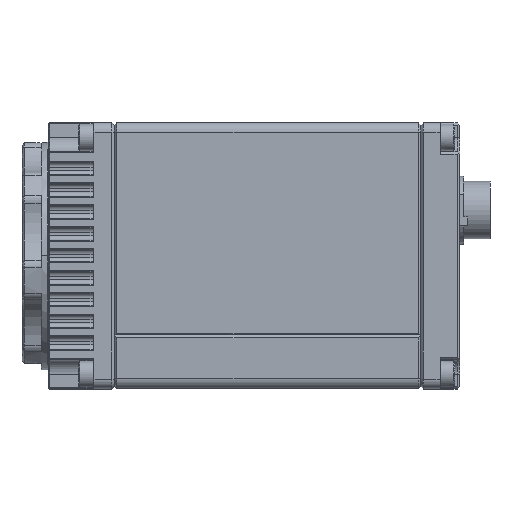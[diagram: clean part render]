
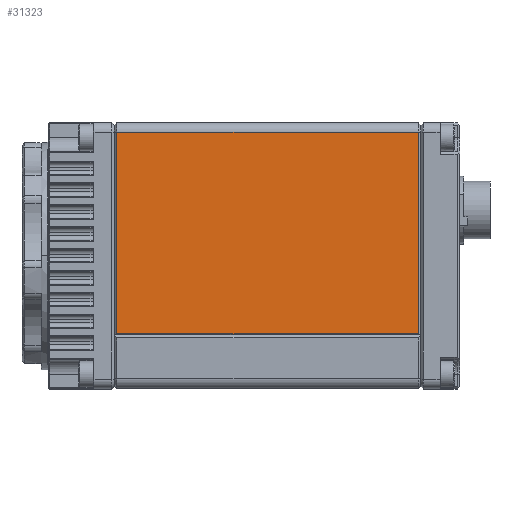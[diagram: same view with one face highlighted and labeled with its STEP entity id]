
A CAD part, top view. The second image highlights one B-rep face of the part: STEP entity #31323.
In plain terms, the highlighted planar face has unit normal (0, 0, 1).
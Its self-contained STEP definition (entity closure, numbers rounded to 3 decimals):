
#2192=DIRECTION('',(0.,-1.,0.));
#2193=VECTOR('',#2192,41.6);
#2194=CARTESIAN_POINT('',(19.59,25.5,27.5));
#2195=LINE('',#2194,#2193);
#3151=DIRECTION('',(0.,1.,0.));
#3152=VECTOR('',#3151,41.6);
#3153=CARTESIAN_POINT('',(81.99,-16.1,27.5));
#3154=LINE('',#3153,#3152);
#3159=DIRECTION('',(-1.,0.,0.));
#3160=VECTOR('',#3159,62.4);
#3161=CARTESIAN_POINT('',(81.99,-16.1,27.5));
#3162=LINE('',#3161,#3160);
#3163=DIRECTION('',(-1.,0.,0.));
#3164=VECTOR('',#3163,62.4);
#3165=CARTESIAN_POINT('',(81.99,25.5,27.5));
#3166=LINE('',#3165,#3164);
#26923=CARTESIAN_POINT('',(81.99,25.5,27.5));
#26924=VERTEX_POINT('',#26923);
#26925=CARTESIAN_POINT('',(81.99,-16.1,
27.5));
#26927=VERTEX_POINT('',#26925);
#26935=CARTESIAN_POINT('',(19.59,-16.1,
27.5));
#26936=VERTEX_POINT('',#26935);
#26937=CARTESIAN_POINT('',(19.59,25.5,27.5));
#26938=VERTEX_POINT('',#26937);
#31311=CARTESIAN_POINT('',(19.09,27.5,27.5));
#31312=DIRECTION('',(0.,0.,1.));
#31313=DIRECTION('',(0.,-1.,0.));
#31314=AXIS2_PLACEMENT_3D('',#31311,#31312,#31313);
#31315=PLANE('',#31314);
#31316=ORIENTED_EDGE('',*,*,#31292,.F.);
#31317=ORIENTED_EDGE('',*,*,#31306,.T.);
#31318=ORIENTED_EDGE('',*,*,#30058,.F.);
#31320=ORIENTED_EDGE('',*,*,#31319,.F.);
#31321=EDGE_LOOP('',(#31316,#31317,#31318,#31320));
#31322=FACE_OUTER_BOUND('',#31321,.F.);
#31323=ADVANCED_FACE('',(#31322),#31315,.T.);
#30058=EDGE_CURVE('',#26938,#26936,#2195,.T.);
#31292=EDGE_CURVE('',#26927,#26924,#3154,.T.);
#31306=EDGE_CURVE('',#26927,#26936,#3162,.T.);
#31319=EDGE_CURVE('',#26924,#26938,#3166,.T.);
